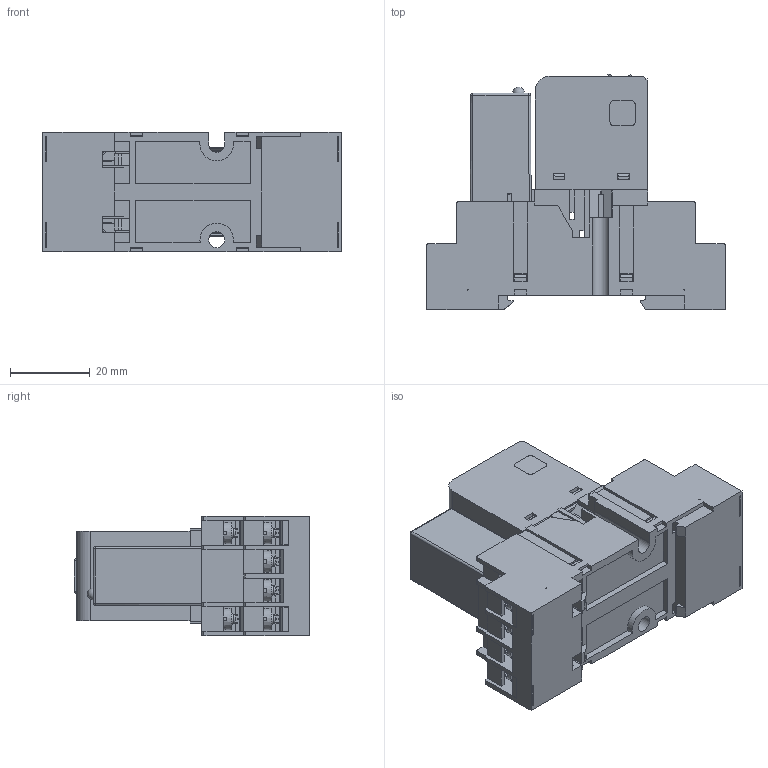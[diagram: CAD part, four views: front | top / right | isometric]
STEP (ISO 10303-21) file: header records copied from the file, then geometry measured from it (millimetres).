
FILE_DESCRIPTION(('STEP AP214'), '1');
FILE_NAME('Ðåëå ìîäóëüíîå ÐÏ30ÍÌ-220 (íà ïîêàç)', '', ('UNSPECIFIED'), ('UNSPECIFIED'), 'ASCON STEP Converter 1.6', 'ASCON Math Kernel', '');
FILE_SCHEMA(('AUTOMOTIVE_DESIGN { 1 0 10303 214 3 1 1}'));
Length unit declared in the file: millimetre
Bounding box: 74.9 x 59 x 30 mm (x, y, z)
Volume: 21976.2 mm3; surface area: 39798.6 mm2
Topology: 14 solids, 14 shells, 3262 faces, 9249 edges, 5928 vertices
Faces by surface type: plane 2425, cylinder 517, torus 140, bspline 108, cone 71, sphere 1
Full cylindrical faces by diameter (mm): 0.3 x2, 0.6 x2, 2.3 x10, 3 x22, 3.2 x1, 3.54 x10, 4 x1, 4.5 x14
Entity records: 149097 total; most frequent: CARTESIAN_POINT 40698, ORIENTED_EDGE 18260, DIRECTION 15247, EDGE_CURVE 9130, LINE 6595, VECTOR 6595, VERTEX_POINT 5927, AXIS2_PLACEMENT_3D 4326
